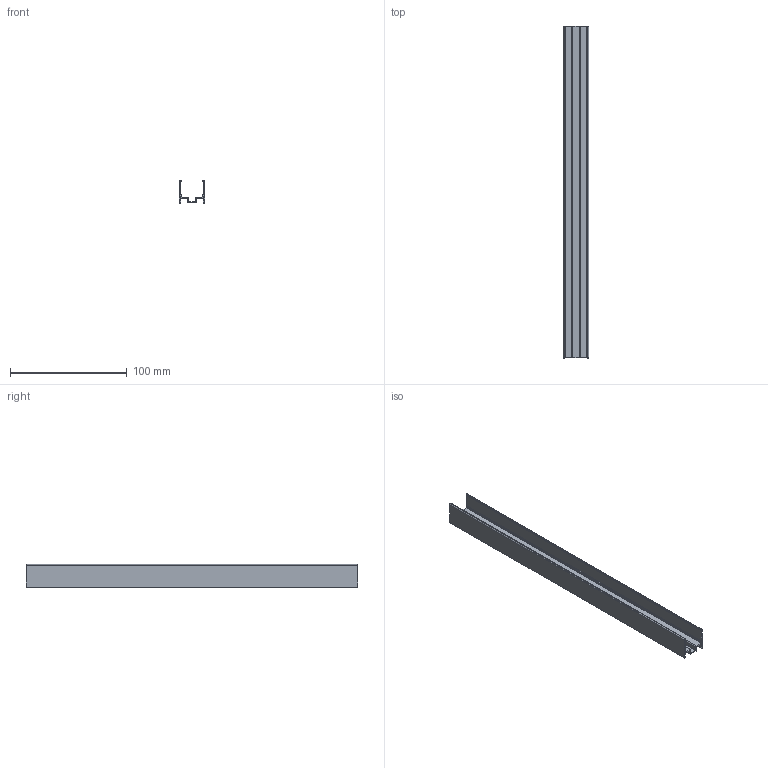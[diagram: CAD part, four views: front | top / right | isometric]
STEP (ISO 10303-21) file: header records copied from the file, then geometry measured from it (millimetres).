
FILE_DESCRIPTION(/* description */ ('Unknown'),/* implementation_level */ '2;1');
FILE_NAME(/* name */ '025-000-0L',/* time_stamp */ '2025-05-08T16:09:13+02:00',/* author */ ('Unknown'),/* organization */ ('Unknown'),/* preprocessor_version */ 'ST-DEVELOPER v16.7',/* originating_system */ 'Solid Edge',/* authorisation */ 'Unknown');
FILE_SCHEMA (('AUTOMOTIVE_DESIGN {1 0 10303 214 3 1 1}'));
Length unit declared in the file: millimetre
Products named in the file (1): 025-000-0L
Bounding box: 21.5 x 284 x 19.7 mm (x, y, z)
Volume: 19571.7 mm3; surface area: 38759.6 mm2
Topology: 1 solids, 1 shells, 64 faces, 186 edges, 124 vertices
Faces by surface type: plane 32, cylinder 32
Entity records: 2164 total; most frequent: DIRECTION 380, CARTESIAN_POINT 375, ORIENTED_EDGE 372, EDGE_CURVE 186, AXIS2_PLACEMENT_3D 129, VERTEX_POINT 124, LINE 122, VECTOR 122
